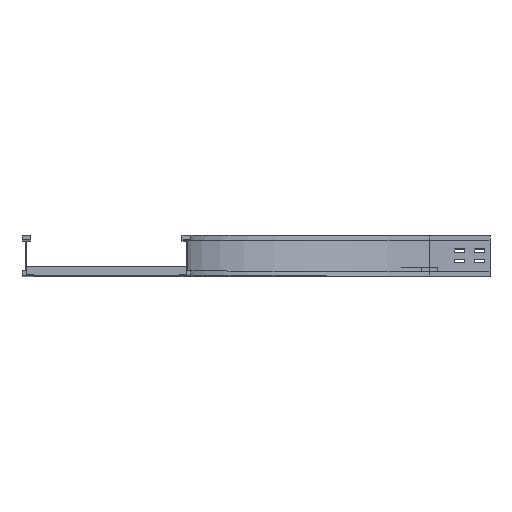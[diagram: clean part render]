
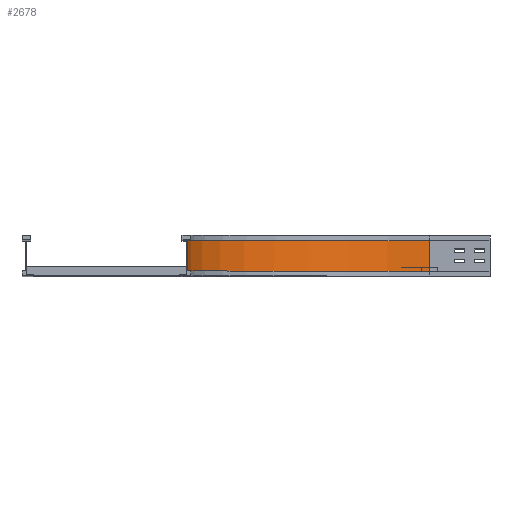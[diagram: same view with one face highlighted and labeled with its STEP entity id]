
A CAD part, top view. The second image highlights one B-rep face of the part: STEP entity #2678.
In plain terms, the highlighted cylindrical face has radius 600 mm (diameter 1200 mm), a partial arc.
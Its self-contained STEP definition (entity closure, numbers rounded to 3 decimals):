
#138 = CYLINDRICAL_SURFACE ( 'NONE', #2689, 600. ) ;
#232 = CARTESIAN_POINT ( 'NONE',  ( 591., 88., -750. ) ) ;
#244 = DIRECTION ( 'NONE',  ( 0., 1., 0. ) ) ;
#467 = ORIENTED_EDGE ( 'NONE', *, *, #1408, .T. ) ;
#590 = FACE_OUTER_BOUND ( 'NONE', #1085, .T. ) ;
#671 = CARTESIAN_POINT ( 'NONE',  ( 591., 12., -150. ) ) ;
#1032 = CARTESIAN_POINT ( 'NONE',  ( 591., 12., -750. ) ) ;
#1085 = EDGE_LOOP ( 'NONE', ( #2228, #4476, #467, #1795 ) ) ;
#1133 = CIRCLE ( 'NONE', #4066, 600. ) ;
#1143 = DIRECTION ( 'NONE',  ( -1., 0., 0. ) ) ;
#1408 = EDGE_CURVE ( 'NONE', #4393, #2852, #1133, .T. ) ;
#1432 = EDGE_CURVE ( 'NONE', #4393, #3790, #1844, .T. ) ;
#1478 = CARTESIAN_POINT ( 'NONE',  ( -9., 88., -150. ) ) ;
#1597 = VECTOR ( 'NONE', #3325, 1000. ) ;
#1795 = ORIENTED_EDGE ( 'NONE', *, *, #1843, .T. ) ;
#1798 = CARTESIAN_POINT ( 'NONE',  ( -9., 12., -150. ) ) ;
#1843 = EDGE_CURVE ( 'NONE', #2852, #3317, #3982, .T. ) ;
#1844 = LINE ( 'NONE', #1798, #1597 ) ;
#1975 = CARTESIAN_POINT ( 'NONE',  ( -9., 12., -150. ) ) ;
#2228 = ORIENTED_EDGE ( 'NONE', *, *, #2465, .F. ) ;
#2282 = CARTESIAN_POINT ( 'NONE',  ( 591., 12., -750. ) ) ;
#2465 = EDGE_CURVE ( 'NONE', #3790, #3317, #3163, .T. ) ;
#2563 = DIRECTION ( 'NONE',  ( 0., -1., 0. ) ) ;
#2678 = ADVANCED_FACE ( 'NONE', ( #590 ), #138, .F. ) ;
#2689 = AXIS2_PLACEMENT_3D ( 'NONE', #3528, #4218, #4608 ) ;
#2852 = VERTEX_POINT ( 'NONE', #2282 ) ;
#3163 = CIRCLE ( 'NONE', #3310, 600. ) ;
#3304 = DIRECTION ( 'NONE',  ( 0., -1., 0. ) ) ;
#3310 = AXIS2_PLACEMENT_3D ( 'NONE', #4446, #2563, #1143 ) ;
#3317 = VERTEX_POINT ( 'NONE', #232 ) ;
#3325 = DIRECTION ( 'NONE',  ( 0., 1., 0. ) ) ;
#3418 = VECTOR ( 'NONE', #244, 1000. ) ;
#3528 = CARTESIAN_POINT ( 'NONE',  ( 591., 0., -150. ) ) ;
#3790 = VERTEX_POINT ( 'NONE', #1478 ) ;
#3975 = DIRECTION ( 'NONE',  ( -1., 0., 0. ) ) ;
#3982 = LINE ( 'NONE', #1032, #3418 ) ;
#4066 = AXIS2_PLACEMENT_3D ( 'NONE', #671, #3304, #3975 ) ;
#4218 = DIRECTION ( 'NONE',  ( 0., -1., 0. ) ) ;
#4393 = VERTEX_POINT ( 'NONE', #1975 ) ;
#4446 = CARTESIAN_POINT ( 'NONE',  ( 591., 88., -150. ) ) ;
#4476 = ORIENTED_EDGE ( 'NONE', *, *, #1432, .F. ) ;
#4608 = DIRECTION ( 'NONE',  ( 0., 0., -1. ) ) ;
